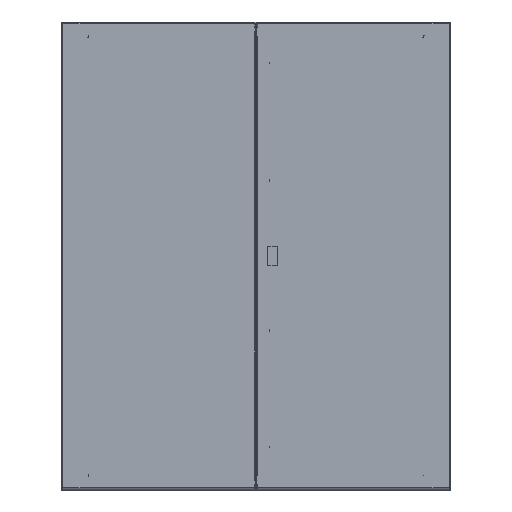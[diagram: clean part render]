
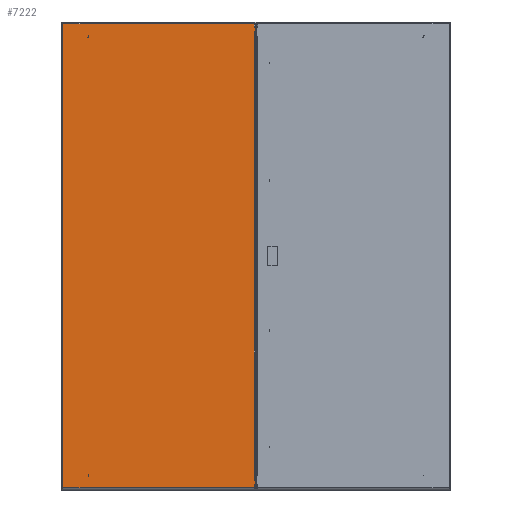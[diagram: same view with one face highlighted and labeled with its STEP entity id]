
A CAD part, top view. The second image highlights one B-rep face of the part: STEP entity #7222.
In plain terms, the highlighted planar face has unit normal (0, 0, 1).
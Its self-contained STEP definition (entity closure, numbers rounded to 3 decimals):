
#283 = LINE ( 'NONE', #30180, #27243 ) ;
#615 = CARTESIAN_POINT ( 'NONE',  ( 247.5, 575.25, 1.35 ) ) ;
#1289 = CARTESIAN_POINT ( 'NONE',  ( 245.15, 586.5, 1.35 ) ) ;
#1576 = EDGE_CURVE ( 'NONE', #6339, #19305, #28887, .T. ) ;
#1677 = FACE_OUTER_BOUND ( 'NONE', #26651, .T. ) ;
#1781 = ORIENTED_EDGE ( 'NONE', *, *, #8877, .T. ) ;
#2091 = VERTEX_POINT ( 'NONE', #22682 ) ;
#2985 = VERTEX_POINT ( 'NONE', #15869 ) ;
#3322 = ORIENTED_EDGE ( 'NONE', *, *, #13839, .F. ) ;
#3607 = CARTESIAN_POINT ( 'NONE',  ( -245.15, 596.115, 1.35 ) ) ;
#3761 = EDGE_CURVE ( 'NONE', #21823, #26971, #21013, .T. ) ;
#4171 = EDGE_CURVE ( 'NONE', #2985, #26971, #28305, .T. ) ;
#4467 = VECTOR ( 'NONE', #18215, 1000. ) ;
#5436 = DIRECTION ( 'NONE',  ( 0., 1., 0. ) ) ;
#5494 = CARTESIAN_POINT ( 'NONE',  ( 247.5, -575.25, 1.35 ) ) ;
#5499 = ORIENTED_EDGE ( 'NONE', *, *, #15699, .T. ) ;
#6083 = LINE ( 'NONE', #13622, #4467 ) ;
#6217 = ORIENTED_EDGE ( 'NONE', *, *, #1576, .T. ) ;
#6339 = VERTEX_POINT ( 'NONE', #8640 ) ;
#6587 = DIRECTION ( 'NONE',  ( 0., 1., 0. ) ) ;
#6651 = VERTEX_POINT ( 'NONE', #15228 ) ;
#7062 = DIRECTION ( 'NONE',  ( 0., 1., 0. ) ) ;
#7222 = ADVANCED_FACE ( 'OUT_FRONT_CB', ( #1677 ), #19914, .F. ) ;
#7293 = DIRECTION ( 'NONE',  ( 1., 0., 0. ) ) ;
#7307 = EDGE_CURVE ( 'NONE', #19305, #23477, #283, .T. ) ;
#7493 = ORIENTED_EDGE ( 'NONE', *, *, #13777, .T. ) ;
#8037 = CARTESIAN_POINT ( 'NONE',  ( -245.15, 595.15, 1.35 ) ) ;
#8640 = CARTESIAN_POINT ( 'NONE',  ( 245.15, 586.5, 1.35 ) ) ;
#8877 = EDGE_CURVE ( 'NONE', #6651, #9497, #6083, .T. ) ;
#9375 = CARTESIAN_POINT ( 'NONE',  ( 247.5, -597.5, 1.35 ) ) ;
#9497 = VERTEX_POINT ( 'NONE', #21500 ) ;
#9646 = VECTOR ( 'NONE', #19996, 1000. ) ;
#10149 = ORIENTED_EDGE ( 'NONE', *, *, #13972, .F. ) ;
#10865 = CARTESIAN_POINT ( 'NONE',  ( 247.5, 575.25, 1.35 ) ) ;
#10898 = ORIENTED_EDGE ( 'NONE', *, *, #4171, .F. ) ;
#10985 = VERTEX_POINT ( 'NONE', #26099 ) ;
#12094 = VECTOR ( 'NONE', #26337, 1000. ) ;
#12413 = DIRECTION ( 'NONE',  ( -1., 0., 0. ) ) ;
#12517 = CARTESIAN_POINT ( 'NONE',  ( 245.15, 595.15, 1.35 ) ) ;
#12781 = VECTOR ( 'NONE', #20536, 1000. ) ;
#13372 = CARTESIAN_POINT ( 'NONE',  ( 247.5, 586.5, 1.35 ) ) ;
#13484 = LINE ( 'NONE', #20508, #29933 ) ;
#13622 = CARTESIAN_POINT ( 'NONE',  ( 245.15, -595.15, 1.35 ) ) ;
#13777 = EDGE_CURVE ( 'NONE', #17779, #10985, #20696, .T. ) ;
#13839 = EDGE_CURVE ( 'NONE', #6339, #10985, #29905, .T. ) ;
#13972 = EDGE_CURVE ( 'NONE', #17779, #2091, #21604, .T. ) ;
#14252 = ORIENTED_EDGE ( 'NONE', *, *, #7307, .T. ) ;
#14777 = EDGE_CURVE ( 'NONE', #26432, #6651, #16040, .T. ) ;
#15228 = CARTESIAN_POINT ( 'NONE',  ( 245.15, -595.15, 1.35 ) ) ;
#15633 = CARTESIAN_POINT ( 'NONE',  ( 247.5, -586.5, 1.35 ) ) ;
#15699 = EDGE_CURVE ( 'NONE', #2985, #2091, #13484, .T. ) ;
#15869 = CARTESIAN_POINT ( 'NONE',  ( 245.15, -575.25, 1.35 ) ) ;
#16040 = LINE ( 'NONE', #19092, #20648 ) ;
#17120 = CARTESIAN_POINT ( 'NONE',  ( 247.5, -586.5, 1.35 ) ) ;
#17779 = VERTEX_POINT ( 'NONE', #10865 ) ;
#18215 = DIRECTION ( 'NONE',  ( 0., 1., 0. ) ) ;
#18236 = DIRECTION ( 'NONE',  ( 0., 1., 0. ) ) ;
#18781 = ORIENTED_EDGE ( 'NONE', *, *, #3761, .T. ) ;
#19060 = VECTOR ( 'NONE', #7293, 1000. ) ;
#19092 = CARTESIAN_POINT ( 'NONE',  ( -246.115, -595.15, 1.35 ) ) ;
#19242 = DIRECTION ( 'NONE',  ( 1., 0., 0. ) ) ;
#19305 = VERTEX_POINT ( 'NONE', #12517 ) ;
#19914 = PLANE ( 'NONE',  #26274 ) ;
#19996 = DIRECTION ( 'NONE',  ( -1., 0., 0. ) ) ;
#19999 = CARTESIAN_POINT ( 'NONE',  ( -245.15, -595.15, 1.35 ) ) ;
#20067 = CARTESIAN_POINT ( 'NONE',  ( 247.5, 597.5, 1.35 ) ) ;
#20225 = DIRECTION ( 'NONE',  ( 0., 0., -1. ) ) ;
#20508 = CARTESIAN_POINT ( 'NONE',  ( 245.15, -575.25, 1.35 ) ) ;
#20520 = DIRECTION ( 'NONE',  ( -1., 0., 0. ) ) ;
#20536 = DIRECTION ( 'NONE',  ( 1., 0., 0. ) ) ;
#20648 = VECTOR ( 'NONE', #19242, 1000. ) ;
#20696 = LINE ( 'NONE', #30056, #28940 ) ;
#20769 = ORIENTED_EDGE ( 'NONE', *, *, #22135, .T. ) ;
#21013 = LINE ( 'NONE', #9375, #28492 ) ;
#21141 = DIRECTION ( 'NONE',  ( -1., 0., 0. ) ) ;
#21383 = ORIENTED_EDGE ( 'NONE', *, *, #24867, .F. ) ;
#21500 = CARTESIAN_POINT ( 'NONE',  ( 245.15, -586.5, 1.35 ) ) ;
#21604 = LINE ( 'NONE', #615, #26981 ) ;
#21701 = CARTESIAN_POINT ( 'NONE',  ( 247.5, -575.25, 1.35 ) ) ;
#21823 = VERTEX_POINT ( 'NONE', #15633 ) ;
#22135 = EDGE_CURVE ( 'NONE', #23477, #26432, #29228, .T. ) ;
#22297 = LINE ( 'NONE', #17120, #9646 ) ;
#22682 = CARTESIAN_POINT ( 'NONE',  ( 245.15, 575.25, 1.35 ) ) ;
#23477 = VERTEX_POINT ( 'NONE', #8037 ) ;
#24867 = EDGE_CURVE ( 'NONE', #21823, #9497, #22297, .T. ) ;
#26099 = CARTESIAN_POINT ( 'NONE',  ( 247.5, 586.5, 1.35 ) ) ;
#26274 = AXIS2_PLACEMENT_3D ( 'NONE', #20067, #20225, #20520 ) ;
#26337 = DIRECTION ( 'NONE',  ( 0., -1., 0. ) ) ;
#26391 = ORIENTED_EDGE ( 'NONE', *, *, #14777, .T. ) ;
#26432 = VERTEX_POINT ( 'NONE', #19999 ) ;
#26651 = EDGE_LOOP ( 'NONE', ( #1781, #21383, #18781, #10898, #5499, #10149, #7493, #3322, #6217, #14252, #20769, #26391 ) ) ;
#26899 = VECTOR ( 'NONE', #5436, 1000. ) ;
#26971 = VERTEX_POINT ( 'NONE', #5494 ) ;
#26981 = VECTOR ( 'NONE', #12413, 1000. ) ;
#27243 = VECTOR ( 'NONE', #21141, 1000. ) ;
#28305 = LINE ( 'NONE', #21701, #19060 ) ;
#28492 = VECTOR ( 'NONE', #7062, 1000. ) ;
#28887 = LINE ( 'NONE', #1289, #26899 ) ;
#28940 = VECTOR ( 'NONE', #6587, 1000. ) ;
#29228 = LINE ( 'NONE', #3607, #12094 ) ;
#29905 = LINE ( 'NONE', #13372, #12781 ) ;
#29933 = VECTOR ( 'NONE', #18236, 1000. ) ;
#30056 = CARTESIAN_POINT ( 'NONE',  ( 247.5, -597.5, 1.35 ) ) ;
#30180 = CARTESIAN_POINT ( 'NONE',  ( 247.5, 595.15, 1.35 ) ) ;
